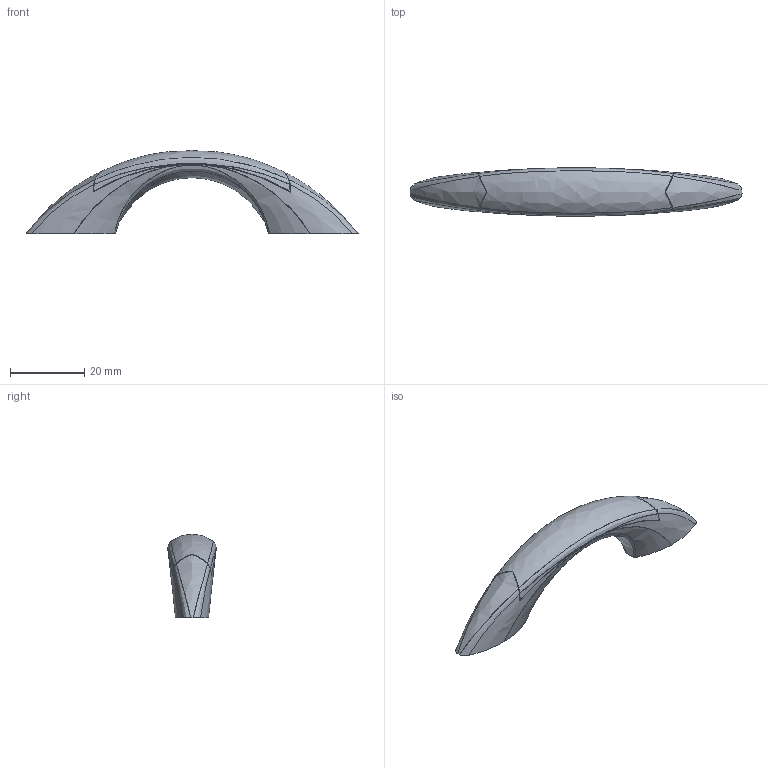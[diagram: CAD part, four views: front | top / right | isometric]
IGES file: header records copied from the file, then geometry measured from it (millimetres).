
Start section: C
Global section: file name: 0043-90.igs; native system: By Siemens PLM Incorporated; preprocessor: XPlus GENERIC/IGES 16.0.42; author: Author; organization: Title; date: 20231212.111155; units: millimetre
Bounding box: 89.2 x 13 x 22.4 mm (x, y, z)
Surface area: 6516.4 mm2 (no closed solid volume)
Topology: 0 solids, 0 shells, 155 faces, 920 edges, 918 vertices
Faces by surface type: bspline 155
